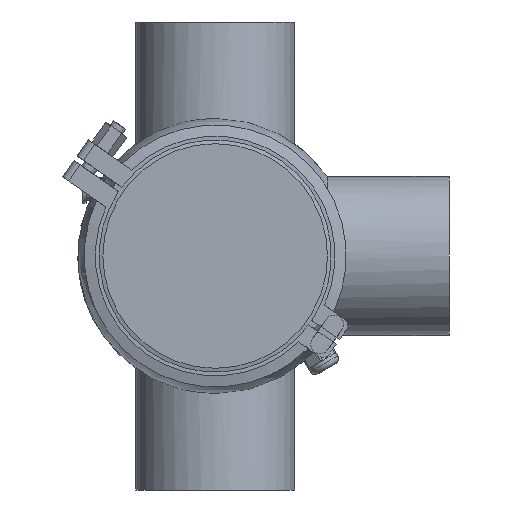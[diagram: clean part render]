
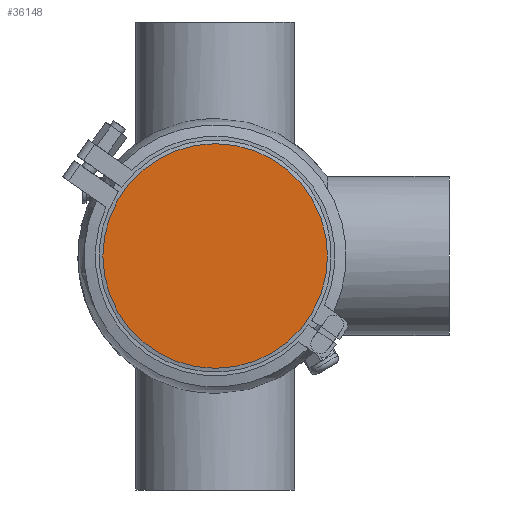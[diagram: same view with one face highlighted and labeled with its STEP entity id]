
A CAD part, front view. The second image highlights one B-rep face of the part: STEP entity #36148.
In plain terms, the highlighted planar face has unit normal (0, -1, 0).
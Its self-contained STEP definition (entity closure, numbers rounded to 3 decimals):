
#3955 = FACE_OUTER_BOUND ( 'NONE', #51048, .T. ) ;
#4243 = PLANE ( 'NONE',  #35691 ) ;
#4349 = EDGE_CURVE ( 'NONE', #8626, #8626, #28740, .T. ) ;
#8626 = VERTEX_POINT ( 'NONE', #12961 ) ;
#12961 = CARTESIAN_POINT ( 'NONE',  ( 0., 0., 60. ) ) ;
#13404 = ORIENTED_EDGE ( 'NONE', *, *, #4349, .F. ) ;
#20931 = DIRECTION ( 'NONE',  ( 0., 1., 0. ) ) ;
#21863 = CARTESIAN_POINT ( 'NONE',  ( 0., 0., 0. ) ) ;
#22850 = CARTESIAN_POINT ( 'NONE',  ( -60., 0., 0. ) ) ;
#26227 = DIRECTION ( 'NONE',  ( 0., 0., 1. ) ) ;
#28740 = CIRCLE ( 'NONE', #58458, 60. ) ;
#35691 = AXIS2_PLACEMENT_3D ( 'NONE', #22850, #61078, #60754 ) ;
#36148 = ADVANCED_FACE ( 'NONE', ( #3955 ), #4243, .T. ) ;
#51048 = EDGE_LOOP ( 'NONE', ( #13404 ) ) ;
#58458 = AXIS2_PLACEMENT_3D ( 'NONE', #21863, #20931, #26227 ) ;
#60754 = DIRECTION ( 'NONE',  ( 0., 0., -1. ) ) ;
#61078 = DIRECTION ( 'NONE',  ( 0., -1., 0. ) ) ;
